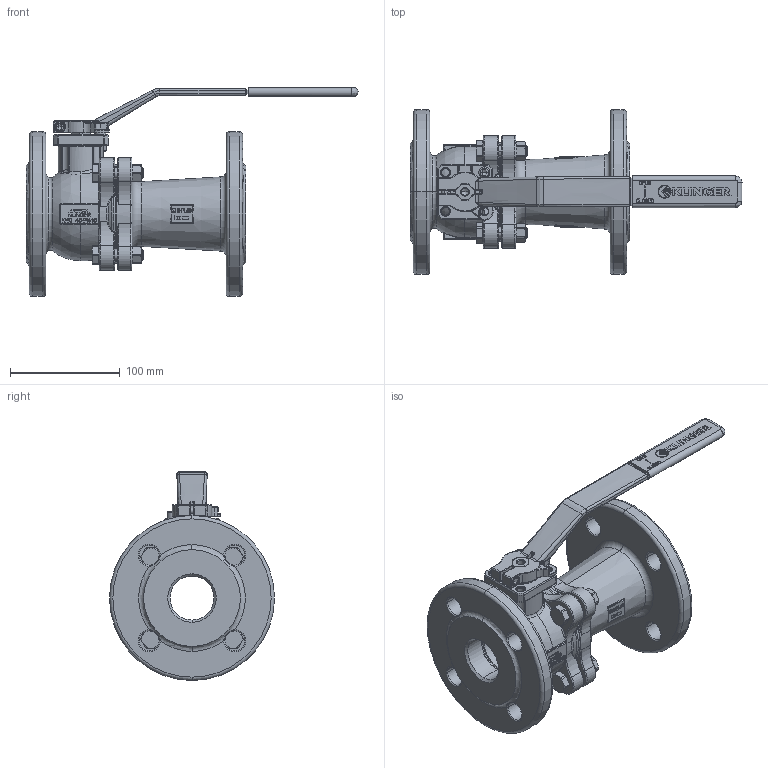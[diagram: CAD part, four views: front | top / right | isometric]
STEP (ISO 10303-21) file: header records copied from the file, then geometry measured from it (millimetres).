
FILE_DESCRIPTION((''),'2;1');
FILE_NAME('KHEFK040VFL040P040PKK','2015-08-10T',('mahrhauserh'),('RAND'),'PRO/ENGINEER BY PARAMETRIC TECHNOLOGY CORPORATION, 2013410','PRO/ENGINEER BY PARAMETRIC TECHNOLOGY CORPORATION, 2013410','');
FILE_SCHEMA(('CONFIG_CONTROL_DESIGN'));
Products named in the file (1): KHEFK040VFL040P040PKK
Bounding box: 302 x 150 x 190.05 mm (x, y, z)
Volume: 1133903.9 mm3; surface area: 249464 mm2
Topology: 1 solids, 1 shells, 3264 faces, 8471 edges, 5345 vertices
Faces by surface type: plane 1975, cylinder 476, torus 306, bspline 274, cone 198, sphere 35
Entity records: 125647 total; most frequent: CARTESIAN_POINT 47002, ORIENTED_EDGE 16930, DIRECTION 15544, EDGE_CURVE 8465, VECTOR 5740, LINE 5740, VERTEX_POINT 5345, AXIS2_PLACEMENT_3D 4902
